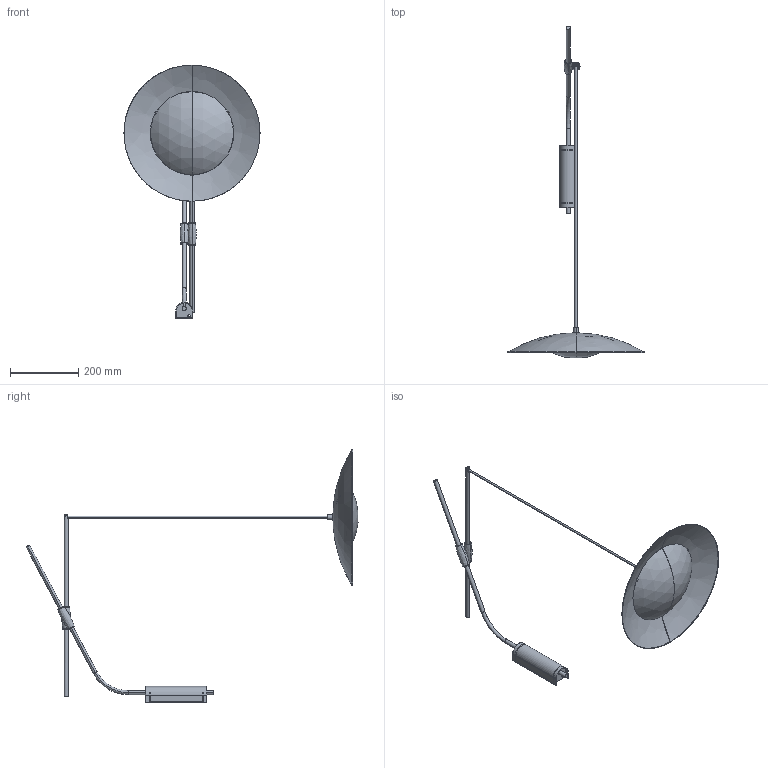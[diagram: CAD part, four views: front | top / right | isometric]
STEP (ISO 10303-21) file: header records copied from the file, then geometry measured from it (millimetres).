
FILE_DESCRIPTION(/* description */ (''),/* implementation_level */ '2;1');
FILE_NAME(/* name */ 'C:\Users\Franco Sartori E\Documents\FARO\DUPLICADO\Modelos\01_Digitalizados\PRIORIZACION 2D\1_SLIM\03_Publicación\24503.stp',/* time_stamp */ '2020-12-14T10:18:49+01:00',/* author */ ('Franco Sartori E'),/* organization */ (''),/* preprocessor_version */ 'ST-DEVELOPER v18.1',/* originating_system */ 'AutoCAD Mechanical',/* authorisation */ '');
FILE_SCHEMA (('AUTOMOTIVE_DESIGN { 1 0 10303 214 3 1 1 }'));
Length unit declared in the file: millimetre
Products named in the file (3): Product; 24502_24503_LAMP - lamp-547644-Export; 24502_24503_Support - LAMP-547649-Export
Assembly tree (2 placements, depth 2):
  Product
    24502_24503_LAMP - lamp-547644-Export
    24502_24503_Support - LAMP-547649-Export
Bounding box: 400.02 x 976.32 x 745.97 mm (x, y, z)
Volume: 746873 mm3; surface area: 800314.7 mm2
Topology: 14 solids, 14 shells, 177 faces, 395 edges, 240 vertices
Faces by surface type: plane 82, cylinder 63, torus 12, bspline 12, cone 4, sphere 4
Entity records: 6071 total; most frequent: CARTESIAN_POINT 2108, DIRECTION 805, ORIENTED_EDGE 790, EDGE_CURVE 395, AXIS2_PLACEMENT_3D 292, VERTEX_POINT 240, LINE 221, VECTOR 221
